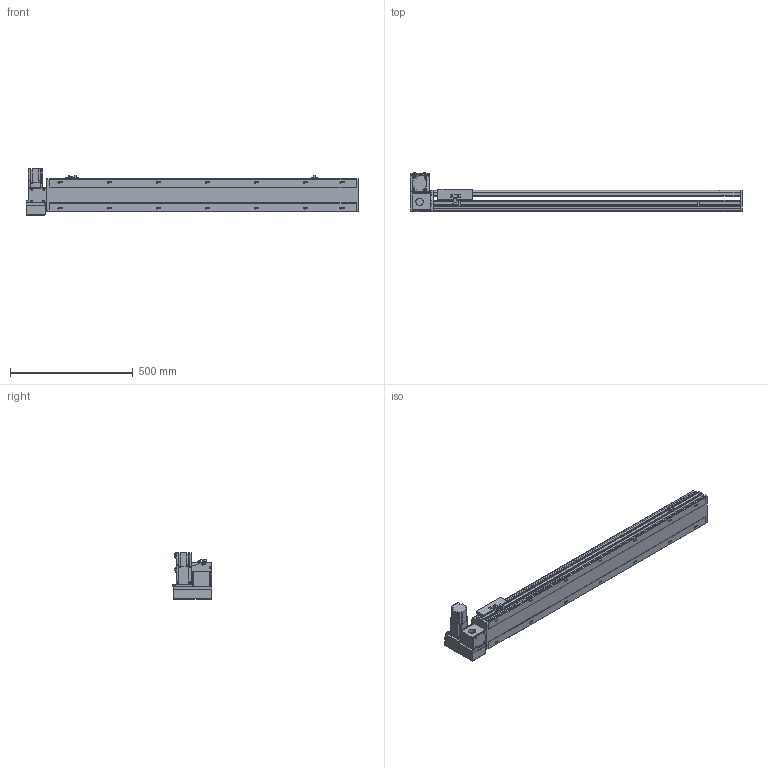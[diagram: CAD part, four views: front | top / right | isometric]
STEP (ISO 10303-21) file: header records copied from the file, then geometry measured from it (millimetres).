
FILE_DESCRIPTION( ( 'STEP AP214' ), '1' );
FILE_NAME( 'x:/temp/worker_6/temp/exporttempdir_5396_128_nzF85/format_0/PBS140S-P40-S1000-LU-T40-C1-N(0).stp', '2022-06-09T00:34:09', ( 'License CC BY-ND 4.0' ), ( 'CADENAS' ), ' ', 'PARTsolutions', ' ' );
FILE_SCHEMA( ( 'AUTOMOTIVE_DESIGN { 1 0 10303 214 1 1 1 1 }' ) );
Length unit declared in the file: millimetre
Products named in the file (7): PBS140S-P40-S1000-LU-T40-C1-N(0); _PBS140S-S1000()_body; _PBS140ST-LU_motors; _T40-p1; _PBS140S_sliser; _PBS140S_plant; _PBS140S_sensor
Assembly tree (8 placements, depth 2):
  PBS140S-P40-S1000-LU-T40-C1-N(0)
    _PBS140S-S1000()_body
    _PBS140ST-LU_motors
    _T40-p1
    _PBS140S_sliser
    _PBS140S_plant
    _PBS140S_sensor  x3
Bounding box: 1354 x 162.5 x 189.7 mm (x, y, z)
Volume: 7039918.8 mm3; surface area: 1218909.5 mm2
Topology: 8 solids, 8 shells, 1083 faces, 2871 edges, 1879 vertices
Faces by surface type: plane 696, cylinder 337, cone 40, sphere 8, torus 2
Full cylindrical faces by diameter (mm): 3.242 x4, 4 x2, 4.134 x4, 4.4 x8, 4.5 x2, 4.8 x4, 4.917 x22, 5.5 x7, 6 x2, 7 x16, 7.5 x8, 8 x12, 8.5 x4, 10.5 x14, 14 x1, 30 x2, 50 x2
Entity records: 39694 total; most frequent: CARTESIAN_POINT 6238, DIRECTION 5278, ORIENTED_EDGE 5002, EDGE_CURVE 2501, AXIS2_PLACEMENT_3D 1829, VERTEX_POINT 1729, LINE 1620, VECTOR 1620
